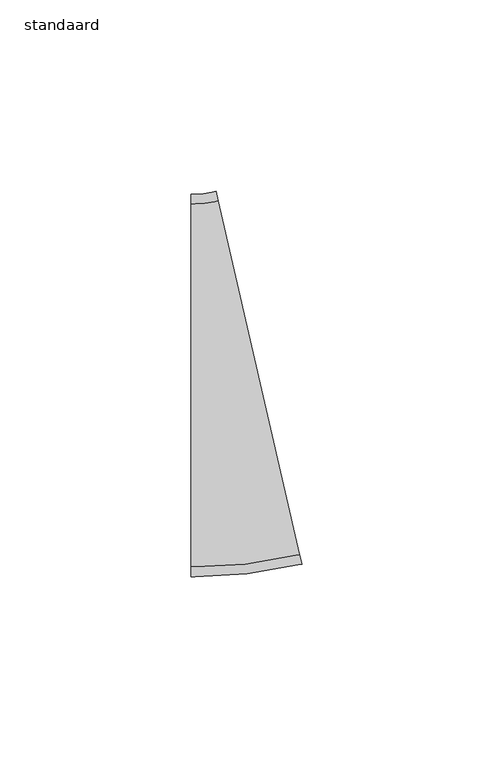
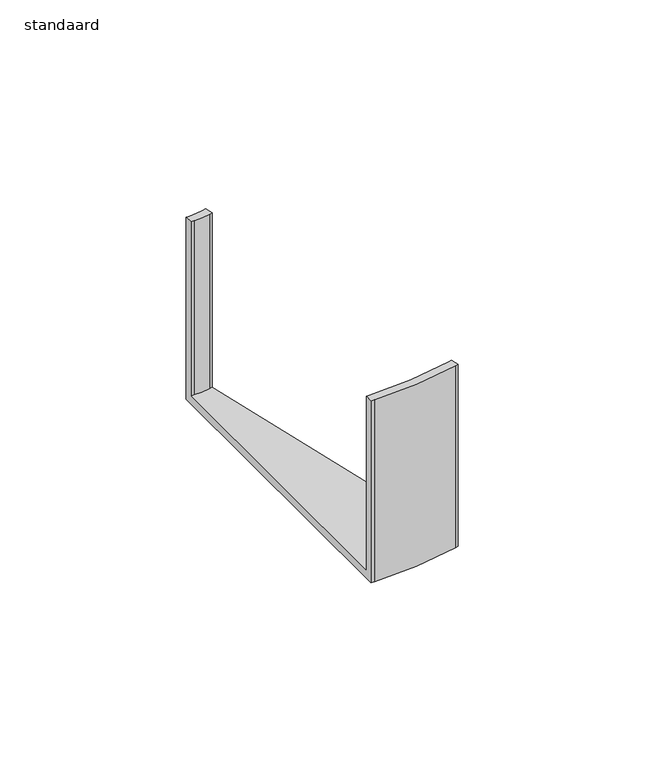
"""IFC4 building model written with IfcOpenShell, lengths in millimetres: cable carrier fitting geometry, AI_Raccord cdc_Coude horizontal rayon court : standaard."""

from ifc_helpers import new_model, si_unit, frame, origin, place, context, project, spatial, polyline, circle_curve, source, transform, mapped, element, save
from ifc_brep_helpers import plane_surface, cylinder_surface, revolved_surface, advanced_brep


def standaard_e0b66c9b(model_context):
    return source(origin(), model_context, "Body", "AdvancedBrep", [
        advanced_brep(
        [(-8.975505, -50.0, -30.0), (-8.975505, -50.0, 30.0), (-8.975505, -47.46, 30.0), (-8.975505, -47.46, -27.46), (-8.975505, 47.46, -27.46), (-8.975505, 47.46, 30.0), (-8.975505, 50.0, 30.0), (-8.975505, 50.0, -30.0), (19.9930324, -46.699447, -30.0), (-2.5021071, 50.7375517, -30.0), (-2.5021071, 50.7375517, 30.0), (-1.9307305, 48.2626519, 30.0), (-1.9307305, 48.2626519, -27.46), (19.4216558, -44.2245472, -27.46), (19.4216558, -44.2245472, 30.0), (19.9930324, -46.699447, 30.0), (-7.975505, -50.0, -30.0), (-7.975505, -50.0, 30.0), (19.0186624, -46.9243983, 30.0), (18.4472859, -44.4494986, 30.0), (-7.975505, -47.46, 30.0), (-7.975505, -47.46, -27.46), (18.4472859, -44.4494986, -27.46), (-2.9051005, 48.0377005, -27.46), (-7.975505, 47.46, -27.46), (-7.975505, 47.46, 30.0), (-2.9051005, 48.0377005, 30.0), (-3.4764771, 50.5126003, 30.0), (-7.975505, 50.0, 30.0), (-7.975505, 50.0, -30.0), (-3.4764771, 50.5126003, -30.0), (19.0186624, -46.9243983, -30.0)],
        [
            (0, 1),
            (1, 2),
            (2, 3),
            (3, 4),
            (4, 5),
            (5, 6),
            (6, 7),
            (7, 0),
            (8, 9),
            (9, 10),
            (10, 11),
            (11, 12),
            (12, 13),
            (13, 14),
            (14, 15),
            (15, 8),
            (0, 16),
            (16, 17),
            (17, 1),
            (17, 18, circle_curve(frame((-7.975505, 70.0, 30.0), z_axis=(0.0, 0.0, 1.0), x_axis=(0.0, -1.0, 0.0)), 120.0)),
            (18, 15),
            (14, 19),
            (19, 20, circle_curve(frame((-7.975505, 70.0, 30.0), z_axis=(0.0, 0.0, -1.0), x_axis=(0.0, -1.0, 0.0)), 117.46)),
            (20, 2),
            (20, 21),
            (21, 3),
            (21, 22, circle_curve(frame((-7.975505, 70.0, -27.46), z_axis=(0.0, 0.0, 1.0), x_axis=(0.0, -1.0, 0.0)), 117.46)),
            (22, 13),
            (12, 23),
            (23, 24, circle_curve(frame((-7.975505, 70.0, -27.46), z_axis=(0.0, 0.0, -1.0), x_axis=(0.0, -1.0, 0.0)), 22.54)),
            (24, 4),
            (24, 25),
            (25, 5),
            (25, 26, circle_curve(frame((-7.975505, 70.0, 30.0), z_axis=(0.0, 0.0, 1.0), x_axis=(0.0, -1.0, 0.0)), 22.54)),
            (26, 11),
            (10, 27),
            (27, 28, circle_curve(frame((-7.975505, 70.0, 30.0), z_axis=(0.0, 0.0, -1.0), x_axis=(0.0, -1.0, 0.0)), 20.0)),
            (28, 6),
            (28, 29),
            (29, 7),
            (29, 30, circle_curve(frame((-7.975505, 70.0, -30.0), z_axis=(0.0, 0.0, 1.0), x_axis=(0.0, -1.0, 0.0)), 20.0)),
            (30, 9),
            (8, 31),
            (31, 16, circle_curve(frame((-7.975505, 70.0, -30.0), z_axis=(0.0, 0.0, -1.0), x_axis=(0.0, -1.0, 0.0)), 120.0)),
            (31, 18),
            (19, 22),
            (23, 26),
            (27, 30),
        ],
        [
            plane_surface(frame((-8.975505, 0.0, 0.0), z_axis=(-1.0, -4.910971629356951e-12, 0.0), x_axis=(0.0, 0.0, 1.0))),
            plane_surface(frame((8.7454626, 2.0190524, 0.0), z_axis=(0.9743699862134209, 0.22495139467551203, 0.0), x_axis=(0.0, 0.0, 1.0))),
            plane_surface(frame((-8.975505, -50.0, -30.0), z_axis=(4.906741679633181e-12, -1.0, 0.0), x_axis=(1.0, 4.906741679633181e-12, 0.0))),
            plane_surface(frame((-8.975505, -50.0, 30.0), z_axis=(0.0, 0.0, 1.0), x_axis=(1.0, 4.906741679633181e-12, 0.0))),
            plane_surface(frame((-8.975505, -47.46, 30.0), z_axis=(-4.906741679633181e-12, 1.0, 0.0), x_axis=(1.0, 4.906741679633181e-12, 0.0))),
            plane_surface(frame((-8.975505, -47.46, -27.46), z_axis=(0.0, 0.0, 1.0), x_axis=(1.0, 4.889821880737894e-12, 0.0))),
            plane_surface(frame((-8.975505, 47.46, -27.46), z_axis=(4.8982817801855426e-12, -1.0, 0.0), x_axis=(1.0, 4.8982817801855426e-12, 0.0))),
            plane_surface(frame((-8.975505, 47.46, 30.0), z_axis=(0.0, 0.0, 1.0), x_axis=(1.0, 4.8982817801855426e-12, 0.0))),
            plane_surface(frame((-8.975505, 50.0, 30.0), z_axis=(-4.906741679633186e-12, 1.0, 0.0), x_axis=(1.0, 4.906741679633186e-12, 0.0))),
            plane_surface(frame((-8.975505, 50.0, -30.0), z_axis=(0.0, 0.0, -1.0), x_axis=(1.0, 4.906741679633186e-12, 0.0))),
            cylinder_surface(frame((-7.975505, 70.0, 0.0), z_axis=(0.0, 0.0, 1.0), x_axis=(0.0, -1.0, 0.0)), 120.0),
            revolved_surface(polyline([(-7.975505, -47.459999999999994, 30.0), (-7.975505, -47.459999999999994, -27.46)]), (-7.975505, 70.0, 0.0), (0.0, 0.0, 1.0)),
            cylinder_surface(frame((-7.975505, 70.0, 0.0), z_axis=(0.0, 0.0, 1.0), x_axis=(0.0, -1.0, 0.0)), 22.54),
            revolved_surface(polyline([(-7.975505, 50.0, 30.0), (-7.975505, 50.0, -30.0)]), (-7.975505, 70.0, 0.0), (0.0, 0.0, 1.0)),
            plane_surface(frame((19.0186624, -46.9243983, -30.0), z_axis=(0.2249513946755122, -0.974369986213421, 0.0), x_axis=(0.974369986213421, 0.2249513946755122, 0.0))),
            plane_surface(frame((18.4472859, -44.4494986, 30.0), z_axis=(-0.22495139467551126, 0.9743699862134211, 0.0), x_axis=(0.9743699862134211, 0.22495139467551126, 0.0))),
            plane_surface(frame((-2.9051005, 48.0377005, -27.46), z_axis=(0.22495139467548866, -0.9743699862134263, 0.0), x_axis=(0.9743699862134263, 0.22495139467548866, 0.0))),
            plane_surface(frame((-3.4764771, 50.5126003, 30.0), z_axis=(-0.22495139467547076, 0.9743699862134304, 0.0), x_axis=(0.9743699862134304, 0.22495139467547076, 0.0))),
        ],
        [
            (0, [[1, 2, 3, 4, 5, 6, 7, 8]]),
            (1, [[9, 10, 11, 12, 13, 14, 15, 16]]),
            (2, [[-1, 17, 18, 19]]),
            (3, [[-2, -19, 20, 21, -15, 22, 23, 24]]),
            (4, [[-3, -24, 25, 26]]),
            (5, [[-4, -26, 27, 28, -13, 29, 30, 31]]),
            (6, [[-5, -31, 32, 33]]),
            (7, [[-6, -33, 34, 35, -11, 36, 37, 38]]),
            (8, [[-7, -38, 39, 40]]),
            (9, [[-8, -40, 41, 42, -9, 43, 44, -17]]),
            (10, [[-20, -18, -44, 45]]),
            (11, [[-27, -25, -23, 46]]),
            (12, [[-34, -32, -30, 47]]),
            (13, [[-41, -39, -37, 48]]),
            (14, [[-45, -43, -16, -21]]),
            (15, [[-46, -22, -14, -28]]),
            (16, [[-47, -29, -12, -35]]),
            (17, [[-48, -36, -10, -42]]),
        ],
    ),
    ])


if __name__ == "__main__":
    model = new_model("IFC4")
    model_context = context("Model", 3, world=origin())
    ifc_project = project(units=[si_unit("LENGTHUNIT", "METRE", prefix="MILLI")], contexts=[model_context])
    site = spatial("IfcSite", under=ifc_project)
    building = spatial("IfcBuilding", under=site)
    placement = place(None, origin())
    standaard_shape = standaard_e0b66c9b(model_context)
    element("IfcCableCarrierFitting", 1, ObjectType="AI_Raccord cdc_Coude horizontal rayon court : standaard", at=placement, inside=building, context=model_context, shape_type="MappedRepresentation", body=[
        mapped(standaard_shape, transform((0.0, 0.0, 0.0), x_axis=(1.0, 0.0, 0.0), y_axis=(0.0, 1.0, 0.0), z_axis=(0.0, 0.0, 1.0))),
    ])
    save(model, "model.ifc")
